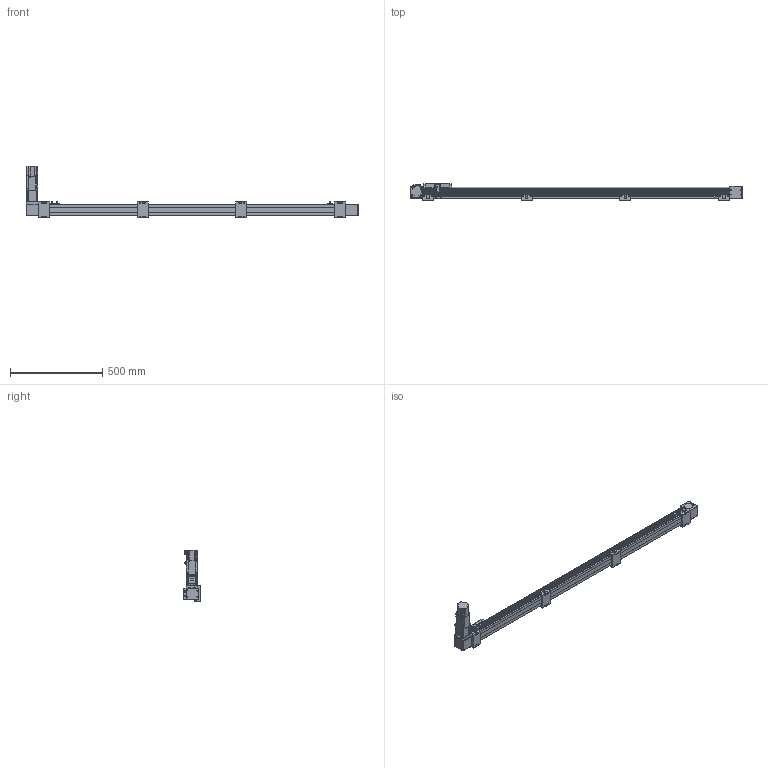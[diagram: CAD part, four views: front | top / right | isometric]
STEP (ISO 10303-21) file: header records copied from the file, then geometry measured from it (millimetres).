
FILE_DESCRIPTION(/* description */ ('STEP AP203'),/* implementation_level */ '2;1');
FILE_NAME(/* name */ 'SK60-P13-S1500-BL-T40-C1-N(0)',/* time_stamp */ '2023-04-06T03:37:09+02:00',/* author */ ('License CC BY-ND 4.0'),/* organization */ ('CADENAS'),/* preprocessor_version */ 'ST-DEVELOPER v19.3',/* originating_system */ 'PARTsolutions',/* authorisation */ ' ');
FILE_SCHEMA (('CONFIG_CONTROL_DESIGN'));
Length unit declared in the file: millimetre
Products named in the file (11): SK60-P13-S1500-BL-T40-C1-N(0); PSC140-sensor; SK60-S450_seat; SK60-S450-BL-C1_slider; SK60_body3; SK60_body6; SK60-BL_body2; T40-p1; SK60_body5; SK60_body4; SK60-S1500-BL-C1_body
Assembly tree (19 placements, depth 2):
  SK60-P13-S1500-BL-T40-C1-N(0)
    PSC140-sensor  x3
    SK60-S450_seat  x4
    SK60-S450-BL-C1_slider
    SK60_body3  x3
    SK60_body6  x2
    SK60-BL_body2  x2
    T40-p1
    SK60_body5
    SK60_body4
    SK60-S1500-BL-C1_body
Bounding box: 1800 x 90 x 278.2 mm (x, y, z)
Volume: 6758627.7 mm3; surface area: 875283.6 mm2
Topology: 19 solids, 23 shells, 922 faces, 2305 edges, 1522 vertices
Faces by surface type: plane 592, cylinder 298, cone 30, torus 2
Full cylindrical faces by diameter (mm): 2.8 x3, 3.3 x4, 4.2 x8, 4.5 x26, 4.6 x3, 4.917 x24, 5 x2, 5.478 x4, 5.5 x27, 6.5 x8, 8 x4, 8.5 x4, 9.988 x4, 10 x16, 13.556 x1, 14 x1, 14.586 x1, 19.692 x1, 38.432 x2, 43 x1, 44 x3, 47 x2, 50 x2
Entity records: 19387 total; most frequent: DIRECTION 3296, CARTESIAN_POINT 3291, ORIENTED_EDGE 3050, EDGE_CURVE 1525, AXIS2_PLACEMENT_3D 1102, LINE 1092, VECTOR 1092, VERTEX_POINT 1077
